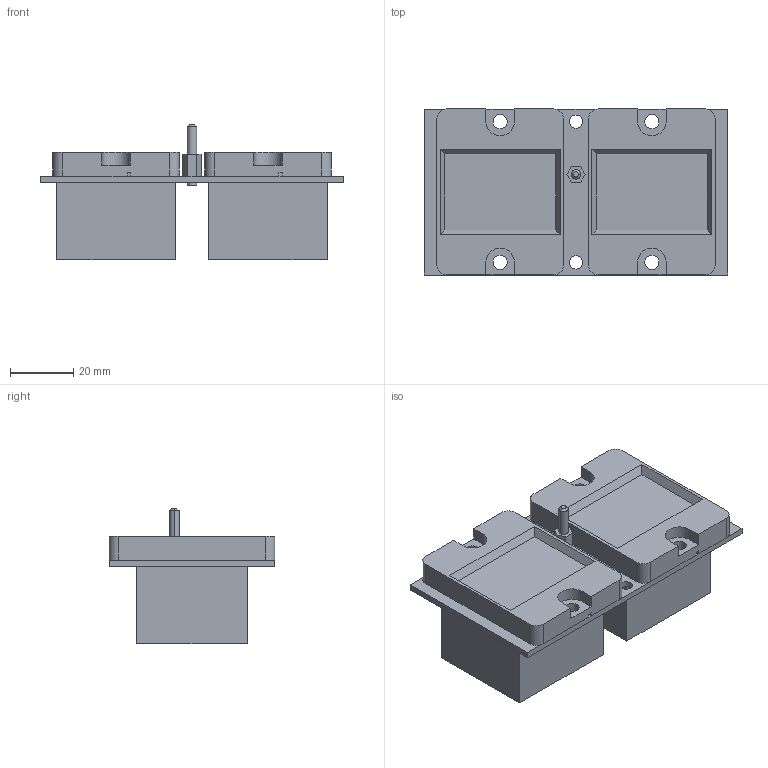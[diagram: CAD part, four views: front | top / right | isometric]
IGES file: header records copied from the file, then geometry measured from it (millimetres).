
Global section: file name: No Iges File Name specified; native system: Autodesk Inventor 2009; preprocessor: AutoDesk Inventor Iges Exporter R2009; author: Niriawan; date: 20080825.140852; units: millimetre
Bounding box: 96 x 52.5 x 43 mm (x, y, z)
Volume: 80888.3 mm3; surface area: 39441.4 mm2
Topology: 1 solids, 1 shells, 558 faces, 1352 edges, 890 vertices
Faces by surface type: plane 510, bspline 22, revolution 12, cylinder 12, cone 2
